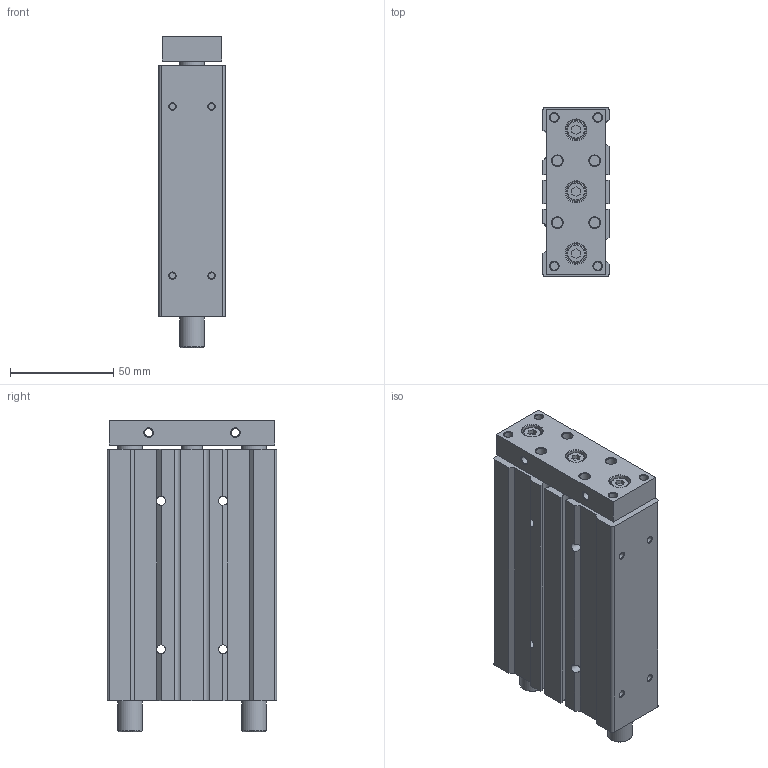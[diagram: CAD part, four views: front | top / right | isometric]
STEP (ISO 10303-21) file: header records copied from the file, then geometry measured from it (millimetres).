
FILE_DESCRIPTION((''),'2;1');
FILE_NAME('I:\3D電子目錄\氣缸\TB(U)\TB(U)20\TB(U)20\TB(U)20x75.stp','2007-08-06T08:21:59',('Administrator'),(''),'Autodesk Inventor 2008','Autodesk Inventor 2008','');
FILE_SCHEMA(('AUTOMOTIVE_DESIGN { 1 0 10303 214 1 1 1 1 }'));
Length unit declared in the file: millimetre
Products named in the file (1): TB(U)20X75
Bounding box: 32 x 82 x 150.9 mm (x, y, z)
Volume: 323444.7 mm3; surface area: 52731.7 mm2
Topology: 1 solids, 1 shells, 188 faces, 424 edges, 268 vertices
Faces by surface type: plane 90, cylinder 50, cone 37, bspline 8, torus 3
Full cylindrical faces by diameter (mm): 3 x4, 4 x6, 4.4 x4, 5 x10, 8 x4, 9 x3, 10 x4, 12 x4, 19 x2, 22 x1
Entity records: 4948 total; most frequent: CARTESIAN_POINT 875, DIRECTION 860, ORIENTED_EDGE 676, AXIS2_PLACEMENT_3D 341, EDGE_CURVE 338, EDGE_LOOP 336, VERTEX_POINT 268, FACE_OUTER_BOUND 188
